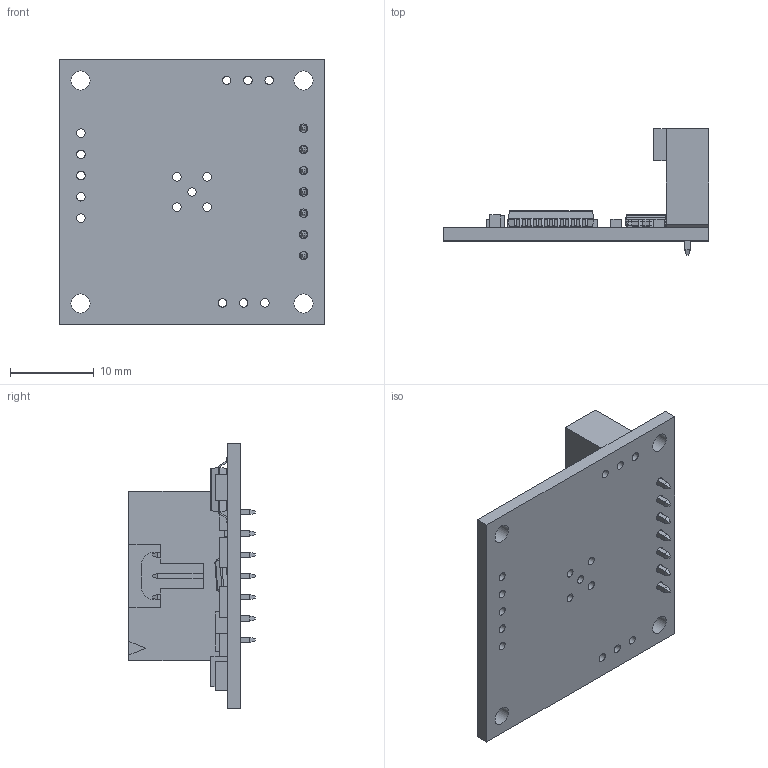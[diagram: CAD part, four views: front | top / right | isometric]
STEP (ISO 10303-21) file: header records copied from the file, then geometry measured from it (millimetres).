
FILE_DESCRIPTION (( 'STEP AP214' ), '1' );
FILE_NAME ('1-6200-006-MV7.STEP', '2024-08-08T13:11:41', ( '' ), ( '' ), 'SwSTEP 2.0', 'SolidWorks 2024', '' );
FILE_SCHEMA (( 'AUTOMOTIVE_DESIGN' ));
Length unit declared in the file: inch
Products named in the file (1): 1-6200-006-MV7
Bounding box: 31.75 x 15.11 x 31.75 mm (x, y, z)
Volume: 2419.7 mm3; surface area: 4063.3 mm2
Topology: 40 solids, 40 shells, 829 faces, 2065 edges, 1342 vertices
Faces by surface type: plane 642, cylinder 177, bspline 8, sphere 2
Full cylindrical faces by diameter (mm): 0.663 x1, 1.012 x7, 1.016 x16, 2.286 x4
Entity records: 36794 total; most frequent: CARTESIAN_POINT 5673, ORIENTED_EDGE 4074, DIRECTION 3931, EDGE_CURVE 2037, LINE 1643, VECTOR 1643, VERTEX_POINT 1342, AXIS2_PLACEMENT_3D 1144
